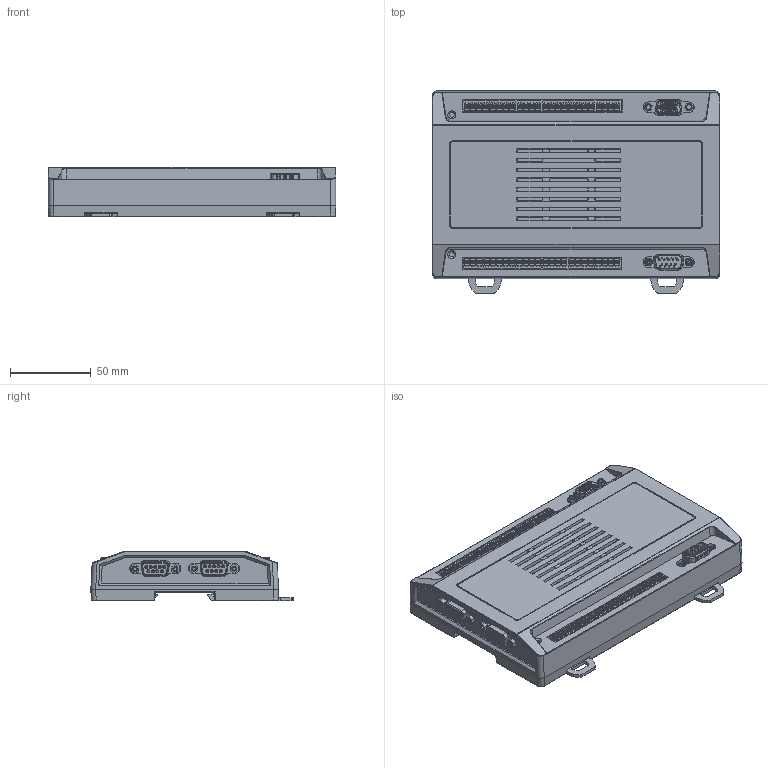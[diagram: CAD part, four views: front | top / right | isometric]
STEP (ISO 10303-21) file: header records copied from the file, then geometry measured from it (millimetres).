
FILE_DESCRIPTION (( 'STEP AP203' ), '1' );
FILE_NAME ('MC7744.STEP', '2023-03-15T02:25:23', ( 'Microsoft' ), ( 'Microsoft' ), 'SwSTEP 2.0', 'SolidWorks 2020', '' );
FILE_SCHEMA (( 'CONFIG_CONTROL_DESIGN' ));
Length unit declared in the file: millimetre
Products named in the file (60): 3.81-5P-180_2; JA2; 2.54-2X5P-M90-K_7; 2.00-2X5P-F180_9; COM1_1; J7; 2.54-2X5P-M90-K_11; 3.81-5P-180; 2.00-2X5P-F180_5; 2.00-2X5P-F180_4; 2.54-2X5P-M90-K_9; 3.81-5P-180_5; JI4; MC7744; 2.00-2X5P-F180_10; 2.54-2X5P-M90-K_2; 3.81-3P-180_4; 2.00-2X5P-F180_3; 3.81-4P-180; 3.81-3P-180; 2.54-2X5P-M90-K_4; 3.81-5P-180_4; 2.00-2X5P-F180_2; DB15_F_3_180; 2.00-2X5P-F180_8; 2.00-2X5P-F180_6; 2.00-2X5P-F180_7; 3.81-5P-180_3; 3.81-4P-180_4; JI1; JO2; 3.81-4P-180_2; 2.54-2X5P-M90-K_10; 2.54-2X5P-M90-K_5; 3.81-3P-180_3; JI6; 2.54-2X5P-M90-K_6; 3.81-4P-180_3; JO1; DB9-F90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
Assembly tree (105 placements, depth 3):
  MC7744
    JI6
      3.81-4P-180
      3.81-4P-180_2
      3.81-4P-180_3
      3.81-4P-180_4
      3.81-4P-180_5
    J8
      2.54-2X5P-M90-K
      2.54-2X5P-M90-K_2
      2.54-2X5P-M90-K_3
      2.54-2X5P-M90-K_4
      2.54-2X5P-M90-K_5
      2.54-2X5P-M90-K_6
      2.54-2X5P-M90-K_7
      2.54-2X5P-M90-K_8
      2.54-2X5P-M90-K_9
      2.54-2X5P-M90-K_10
      2.54-2X5P-M90-K_11
    JO2
      3.81-5P-180
      3.81-5P-180_2
      3.81-5P-180_3
      3.81-5P-180_4
      3.81-5P-180_5
      3.81-5P-180_6
    JO1
      DB9-M180
    JI5
      3.81-4P-180
      3.81-4P-180_2
      3.81-4P-180_3
      3.81-4P-180_4
      3.81-4P-180_5
    JI4
      3.81-4P-180
      3.81-4P-180_2
      3.81-4P-180_3
      3.81-4P-180_4
      3.81-4P-180_5
    JI3
      3.81-4P-180
      3.81-4P-180_2
      3.81-4P-180_3
      3.81-4P-180_4
      3.81-4P-180_5
    JI2
      3.81-4P-180
      3.81-4P-180_2
      3.81-4P-180_3
      3.81-4P-180_4
      3.81-4P-180_5
    JI1
      3.81-4P-180
      3.81-4P-180_2
      3.81-4P-180_3
      3.81-4P-180_4
      3.81-4P-180_5
    JA4
      3.81-4P-180
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Bounding box: 177.52 x 125 x 30.7 mm (x, y, z)
Volume: 141226 mm3; surface area: 166495.2 mm2
Topology: 98 solids, 98 shells, 8251 faces, 21608 edges, 13802 vertices
Faces by surface type: plane 5650, cylinder 1560, bspline 579, torus 206, cone 184, sphere 72
Entity records: 187020 total; most frequent: CARTESIAN_POINT 50557, ORIENTED_EDGE 27920, DIRECTION 24864, EDGE_CURVE 13960, VECTOR 9692, LINE 9692, VERTEX_POINT 8947, AXIS2_PLACEMENT_3D 7586
